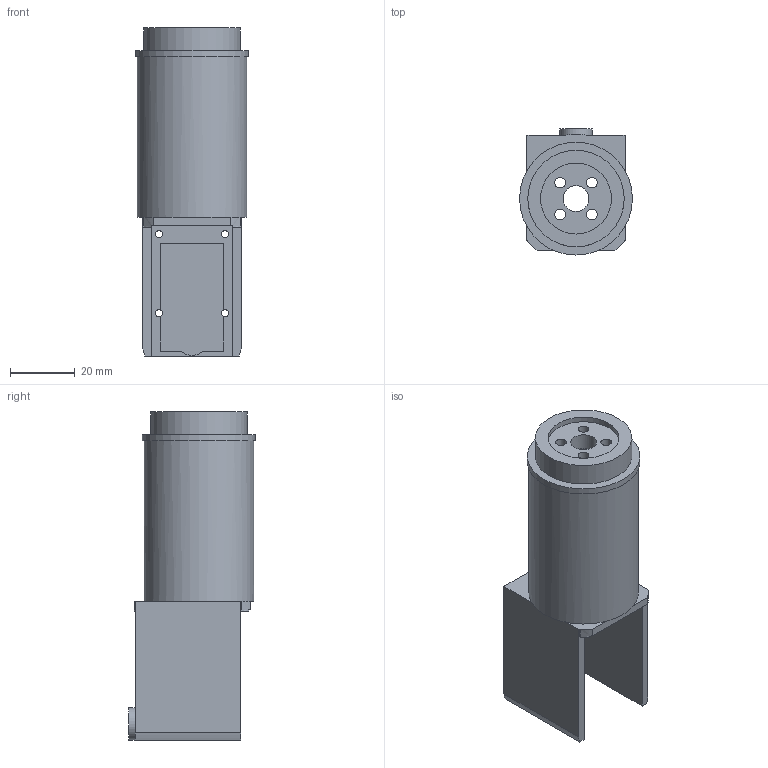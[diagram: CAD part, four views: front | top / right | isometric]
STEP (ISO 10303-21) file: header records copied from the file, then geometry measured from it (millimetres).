
FILE_DESCRIPTION(('Open CASCADE Model'),'2;1');
FILE_NAME('Open CASCADE Shape Model','2026-10-02T23:27:40',('Author'),( 'Open CASCADE'),'Open CASCADE STEP processor 7.9','Open CASCADE 7.9' ,'Unknown');
FILE_SCHEMA(('AUTOMOTIVE_DESIGN { 1 0 10303 214 1 1 1 1 }'));
Length unit declared in the file: millimetre
Products named in the file (1): Open CASCADE STEP translator 7.9 7
Bounding box: 35 x 39.25 x 101.7 mm (x, y, z)
Volume: 29030.4 mm3; surface area: 22560.8 mm2
Topology: 1 solids, 1 shells, 89 faces, 222 edges, 143 vertices
Faces by surface type: plane 54, cylinder 35
Full cylindrical faces by diameter (mm): 2.2 x4, 3.3 x4, 4.4 x4, 5.6 x1, 8 x1, 10 x1, 22 x1, 29.2 x1, 29.9 x1, 34 x1, 35 x1
Entity records: 5759 total; most frequent: CARTESIAN_POINT 1328, DIRECTION 827, ORIENTED_EDGE 444, PCURVE 444, DEFINITIONAL_REPRESENTATION 444, LINE 437, VECTOR 437, EDGE_CURVE 222
